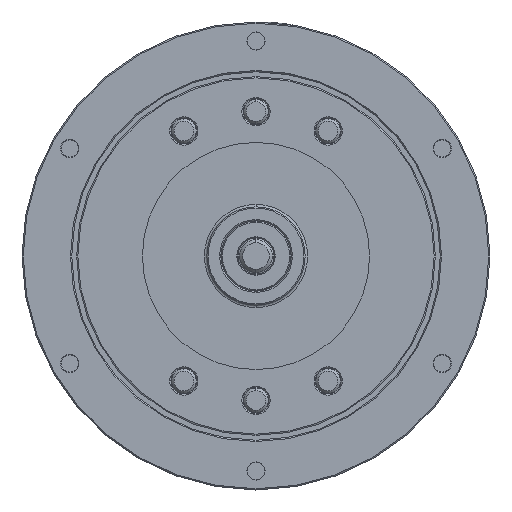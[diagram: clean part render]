
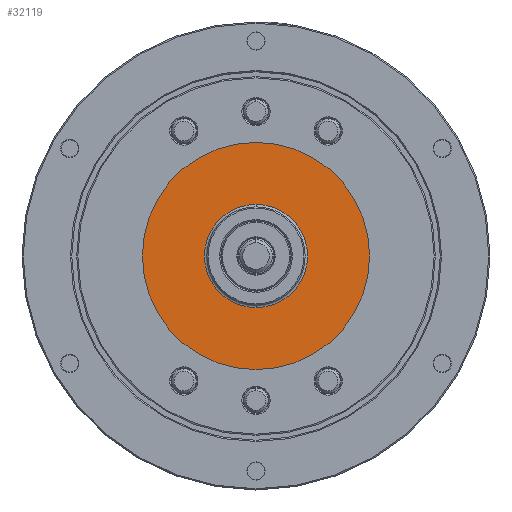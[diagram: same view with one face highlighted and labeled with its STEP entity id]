
A CAD part, left-side view. The second image highlights one B-rep face of the part: STEP entity #32119.
In plain terms, the highlighted planar face has unit normal (-1, 0, 0).
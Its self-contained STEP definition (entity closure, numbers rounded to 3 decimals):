
#3263 = FACE_OUTER_BOUND ( 'NONE', #17332, .T. ) ;
#3486 = DIRECTION ( 'NONE',  ( 1., 0., 0. ) ) ;
#5122 = CARTESIAN_POINT ( 'NONE',  ( -111.5, 0., 42. ) ) ;
#6226 = AXIS2_PLACEMENT_3D ( 'NONE', #9774, #9715, #9669 ) ;
#6748 = DIRECTION ( 'NONE',  ( 0., 0., -1. ) ) ;
#7210 = CARTESIAN_POINT ( 'NONE',  ( -111.5, 92.5, 0. ) ) ;
#7978 = CIRCLE ( 'NONE', #18629, 42. ) ;
#8040 = DIRECTION ( 'NONE',  ( 1., 0., 0. ) ) ;
#9669 = DIRECTION ( 'NONE',  ( 0., 0., -1. ) ) ;
#9715 = DIRECTION ( 'NONE',  ( 1., 0., 0. ) ) ;
#9774 = CARTESIAN_POINT ( 'NONE',  ( -111.5, 0., 0. ) ) ;
#9830 = CARTESIAN_POINT ( 'NONE',  ( -111.5, 0., 0. ) ) ;
#14221 = FACE_BOUND ( 'NONE', #20420, .T. ) ;
#15136 = VERTEX_POINT ( 'NONE', #36839 ) ;
#17332 = EDGE_LOOP ( 'NONE', ( #37353, #22999 ) ) ;
#18193 = ORIENTED_EDGE ( 'NONE', *, *, #29273, .T. ) ;
#18296 = VERTEX_POINT ( 'NONE', #5122 ) ;
#18629 = AXIS2_PLACEMENT_3D ( 'NONE', #9830, #8040, #6748 ) ;
#20420 = EDGE_LOOP ( 'NONE', ( #18193, #46602 ) ) ;
#21028 = CARTESIAN_POINT ( 'NONE',  ( -111.5, 0., -42. ) ) ;
#21101 = EDGE_CURVE ( 'NONE', #15136, #41593, #27140, .T. ) ;
#21962 = CIRCLE ( 'NONE', #38172, 92.5 ) ;
#22999 = ORIENTED_EDGE ( 'NONE', *, *, #21101, .F. ) ;
#23670 = EDGE_CURVE ( 'NONE', #18296, #29849, #7978, .T. ) ;
#25405 = CARTESIAN_POINT ( 'NONE',  ( -111.5, 0., 0. ) ) ;
#27140 = CIRCLE ( 'NONE', #6226, 92.5 ) ;
#29067 = DIRECTION ( 'NONE',  ( 0., 0., -1. ) ) ;
#29273 = EDGE_CURVE ( 'NONE', #29849, #18296, #41569, .T. ) ;
#29457 = CARTESIAN_POINT ( 'NONE',  ( -111.5, 92.5, 0. ) ) ;
#29849 = VERTEX_POINT ( 'NONE', #21028 ) ;
#32119 = ADVANCED_FACE ( 'NONE', ( #14221, #3263 ), #43730, .T. ) ;
#36155 = AXIS2_PLACEMENT_3D ( 'NONE', #29457, #43626, #43619 ) ;
#36455 = DIRECTION ( 'NONE',  ( 0., 0., -1. ) ) ;
#36631 = DIRECTION ( 'NONE',  ( 1., 0., 0. ) ) ;
#36674 = CARTESIAN_POINT ( 'NONE',  ( -111.5, 0., 0. ) ) ;
#36839 = CARTESIAN_POINT ( 'NONE',  ( -111.5, -92.5, 0. ) ) ;
#37353 = ORIENTED_EDGE ( 'NONE', *, *, #38975, .F. ) ;
#38172 = AXIS2_PLACEMENT_3D ( 'NONE', #25405, #3486, #29067 ) ;
#38975 = EDGE_CURVE ( 'NONE', #41593, #15136, #21962, .T. ) ;
#41569 = CIRCLE ( 'NONE', #44199, 42. ) ;
#41593 = VERTEX_POINT ( 'NONE', #7210 ) ;
#43619 = DIRECTION ( 'NONE',  ( 0., 0., 1. ) ) ;
#43626 = DIRECTION ( 'NONE',  ( -1., 0., 0. ) ) ;
#43730 = PLANE ( 'NONE',  #36155 ) ;
#44199 = AXIS2_PLACEMENT_3D ( 'NONE', #36674, #36631, #36455 ) ;
#46602 = ORIENTED_EDGE ( 'NONE', *, *, #23670, .T. ) ;
